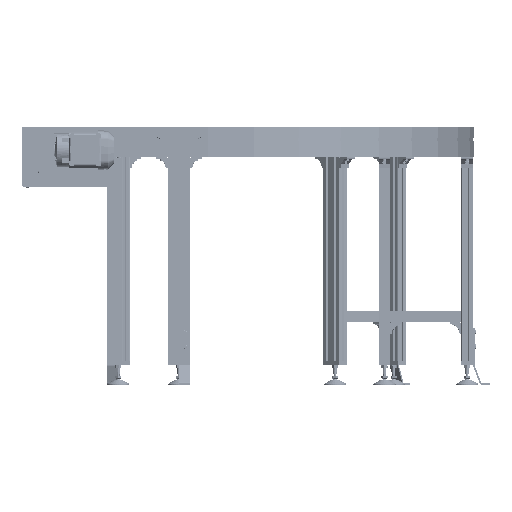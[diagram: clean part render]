
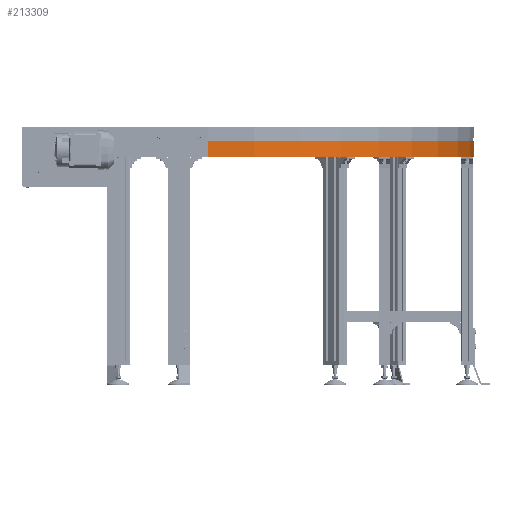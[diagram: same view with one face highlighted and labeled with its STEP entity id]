
A CAD part, front view. The second image highlights one B-rep face of the part: STEP entity #213309.
In plain terms, the highlighted cylindrical face has radius 935 mm (diameter 1870 mm), a partial arc.
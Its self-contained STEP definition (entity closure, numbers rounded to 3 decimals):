
#21223=LINE('',#353934,#41037);
#21262=LINE('',#354075,#41076);
#21263=LINE('',#354078,#41077);
#21502=LINE('',#354849,#41316);
#41037=VECTOR('',#285291,4.45);
#41076=VECTOR('',#285450,4.45);
#41077=VECTOR('',#285453,49.);
#41316=VECTOR('',#286454,49.);
#51592=CYLINDRICAL_SURFACE('',#231402,935.);
#63581=FACE_OUTER_BOUND('',#75959,.T.);
#75959=EDGE_LOOP('',(#188099,#188100,#188101,#188102,#188103,#188104));
#83973=CIRCLE('',#231400,935.);
#83975=CIRCLE('',#231403,935.);
#88398=VERTEX_POINT('',#303386);
#102452=VERTEX_POINT('',#353918);
#102455=VERTEX_POINT('',#353925);
#102495=VERTEX_POINT('',#354057);
#102499=VERTEX_POINT('',#354077);
#102650=VERTEX_POINT('',#354844);
#130955=EDGE_CURVE('',#102455,#102452,#21223,.T.);
#131020=EDGE_CURVE('',#102495,#88398,#21262,.T.);
#131021=EDGE_CURVE('',#102499,#102495,#21263,.T.);
#131478=EDGE_CURVE('',#102650,#102499,#83973,.T.);
#131480=EDGE_CURVE('',#102452,#88398,#83975,.T.);
#131481=EDGE_CURVE('',#102650,#102455,#21502,.T.);
#188099=ORIENTED_EDGE('',*,*,#131021,.T.);
#188100=ORIENTED_EDGE('',*,*,#131020,.T.);
#188101=ORIENTED_EDGE('',*,*,#131480,.F.);
#188102=ORIENTED_EDGE('',*,*,#130955,.F.);
#188103=ORIENTED_EDGE('',*,*,#131481,.F.);
#188104=ORIENTED_EDGE('',*,*,#131478,.T.);
#213309=ADVANCED_FACE('',(#63581),#51592,.T.);
#231400=AXIS2_PLACEMENT_3D('',#354845,#286446,#286447);
#231402=AXIS2_PLACEMENT_3D('',#354847,#286450,#286451);
#231403=AXIS2_PLACEMENT_3D('',#354848,#286452,#286453);
#285291=DIRECTION('',(0.,0.,1.));
#285450=DIRECTION('',(0.,0.,1.));
#285453=DIRECTION('',(0.,0.,1.));
#286446=DIRECTION('center_axis',(0.,0.,
1.));
#286447=DIRECTION('ref_axis',(0.,-1.,0.));
#286450=DIRECTION('center_axis',(0.,0.,
1.));
#286451=DIRECTION('ref_axis',(0.,-1.,0.));
#286452=DIRECTION('center_axis',(0.,0.,
1.));
#286453=DIRECTION('ref_axis',(0.,-1.,0.));
#286454=DIRECTION('',(0.,0.,1.));
#303386=CARTESIAN_POINT('',(556.,167.5,54.45));
#353918=CARTESIAN_POINT('',(556.,-1702.5,54.45));
#353925=CARTESIAN_POINT('',(556.,-1702.5,50.));
#353934=CARTESIAN_POINT('',(556.,-1702.5,1.));
#354057=CARTESIAN_POINT('',(556.,167.5,50.));
#354075=CARTESIAN_POINT('',(556.,167.5,1.));
#354077=CARTESIAN_POINT('',(556.,167.5,1.));
#354078=CARTESIAN_POINT('',(556.,167.5,1.));
#354844=CARTESIAN_POINT('',(556.,-1702.5,1.));
#354845=CARTESIAN_POINT('Origin',(556.,-767.5,1.));
#354847=CARTESIAN_POINT('Origin',(556.,-767.5,27.725));
#354848=CARTESIAN_POINT('Origin',(556.,-767.5,54.45));
#354849=CARTESIAN_POINT('',(556.,-1702.5,1.));
